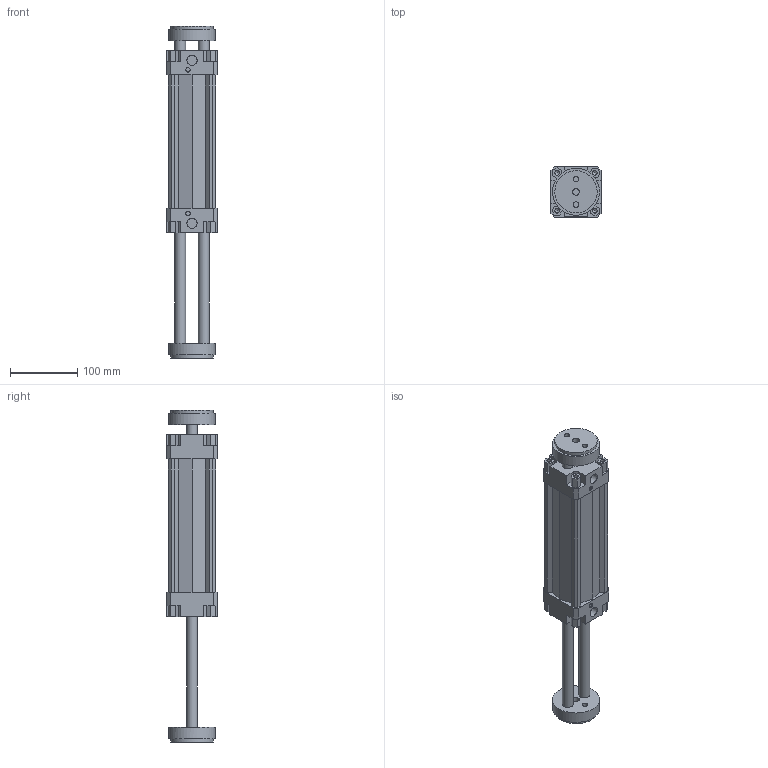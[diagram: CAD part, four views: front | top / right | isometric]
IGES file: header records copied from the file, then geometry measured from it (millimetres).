
Global section: file name: 132#_063_0150_06; native system: Autodesk Inventor 2014; preprocessor: unknown; author: A. Manieri; date: 20161006.155949; units: millimetre
Bounding box: 75 x 75 x 495 mm (x, y, z)
Volume: 1052087.6 mm3; surface area: 237711 mm2
Topology: 2 solids, 2 shells, 190 faces, 518 edges, 354 vertices
Faces by surface type: bspline 190
